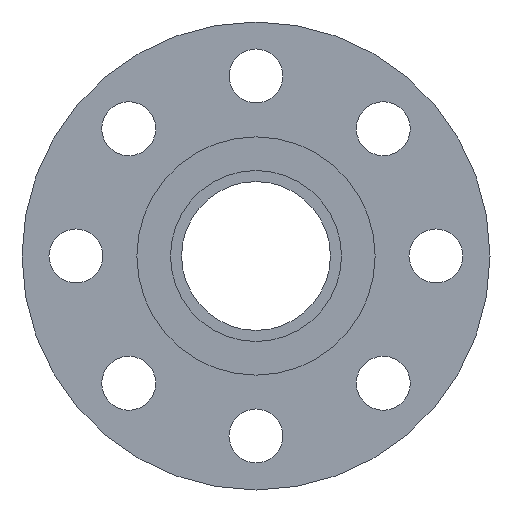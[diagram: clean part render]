
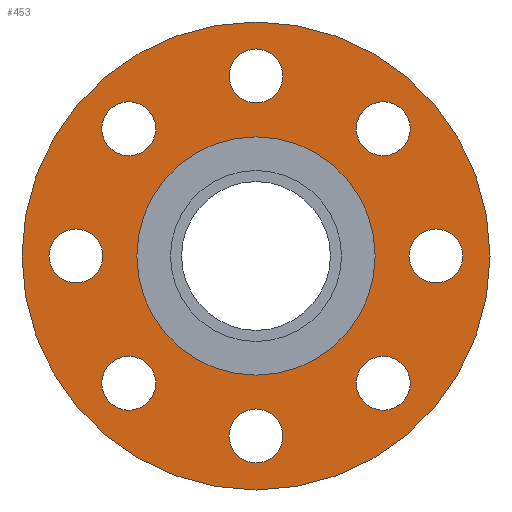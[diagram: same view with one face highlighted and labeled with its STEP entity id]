
A CAD part, left-side view. The second image highlights one B-rep face of the part: STEP entity #453.
In plain terms, the highlighted planar face has unit normal (-1, 0, 0).
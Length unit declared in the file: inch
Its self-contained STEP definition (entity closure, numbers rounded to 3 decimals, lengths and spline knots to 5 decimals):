
#14=FACE_BOUND('',#76,.T.);
#15=FACE_BOUND('',#77,.T.);
#16=FACE_BOUND('',#78,.T.);
#17=FACE_BOUND('',#79,.T.);
#18=FACE_BOUND('',#80,.T.);
#19=FACE_BOUND('',#81,.T.);
#20=FACE_BOUND('',#82,.T.);
#21=FACE_BOUND('',#83,.T.);
#22=FACE_BOUND('',#84,.T.);
#37=PLANE('',#515);
#53=FACE_OUTER_BOUND('',#75,.T.);
#75=EDGE_LOOP('',(#326,#327));
#76=EDGE_LOOP('',(#328));
#77=EDGE_LOOP('',(#329));
#78=EDGE_LOOP('',(#330));
#79=EDGE_LOOP('',(#331));
#80=EDGE_LOOP('',(#332));
#81=EDGE_LOOP('',(#333));
#82=EDGE_LOOP('',(#334));
#83=EDGE_LOOP('',(#335));
#84=EDGE_LOOP('',(#336,#337));
#142=CIRCLE('',#488,0.375);
#144=CIRCLE('',#491,0.375);
#146=CIRCLE('',#494,0.375);
#148=CIRCLE('',#497,0.375);
#150=CIRCLE('',#500,0.375);
#152=CIRCLE('',#503,0.375);
#154=CIRCLE('',#506,0.375);
#156=CIRCLE('',#509,0.375);
#157=CIRCLE('',#511,3.25);
#158=CIRCLE('',#512,3.25);
#161=CIRCLE('',#516,1.655);
#162=CIRCLE('',#517,1.655);
#186=VERTEX_POINT('',#705);
#188=VERTEX_POINT('',#711);
#190=VERTEX_POINT('',#717);
#192=VERTEX_POINT('',#723);
#194=VERTEX_POINT('',#729);
#196=VERTEX_POINT('',#735);
#198=VERTEX_POINT('',#741);
#200=VERTEX_POINT('',#747);
#201=VERTEX_POINT('',#751);
#202=VERTEX_POINT('',#752);
#205=VERTEX_POINT('',#761);
#206=VERTEX_POINT('',#762);
#231=EDGE_CURVE('',#186,#186,#142,.T.);
#234=EDGE_CURVE('',#188,#188,#144,.T.);
#237=EDGE_CURVE('',#190,#190,#146,.T.);
#240=EDGE_CURVE('',#192,#192,#148,.T.);
#243=EDGE_CURVE('',#194,#194,#150,.T.);
#246=EDGE_CURVE('',#196,#196,#152,.T.);
#249=EDGE_CURVE('',#198,#198,#154,.T.);
#252=EDGE_CURVE('',#200,#200,#156,.T.);
#253=EDGE_CURVE('',#201,#202,#157,.T.);
#254=EDGE_CURVE('',#202,#201,#158,.T.);
#258=EDGE_CURVE('',#205,#206,#161,.T.);
#259=EDGE_CURVE('',#206,#205,#162,.T.);
#326=ORIENTED_EDGE('',*,*,#253,.T.);
#327=ORIENTED_EDGE('',*,*,#254,.T.);
#328=ORIENTED_EDGE('',*,*,#231,.T.);
#329=ORIENTED_EDGE('',*,*,#234,.T.);
#330=ORIENTED_EDGE('',*,*,#237,.T.);
#331=ORIENTED_EDGE('',*,*,#240,.T.);
#332=ORIENTED_EDGE('',*,*,#243,.T.);
#333=ORIENTED_EDGE('',*,*,#246,.T.);
#334=ORIENTED_EDGE('',*,*,#249,.T.);
#335=ORIENTED_EDGE('',*,*,#252,.T.);
#336=ORIENTED_EDGE('',*,*,#258,.F.);
#337=ORIENTED_EDGE('',*,*,#259,.F.);
#453=ADVANCED_FACE('',(#53,#14,#15,#16,#17,#18,#19,#20,#21,#22),#37,.T.);
#488=AXIS2_PLACEMENT_3D('',#707,#559,#560);
#491=AXIS2_PLACEMENT_3D('',#713,#566,#567);
#494=AXIS2_PLACEMENT_3D('',#719,#573,#574);
#497=AXIS2_PLACEMENT_3D('',#725,#580,#581);
#500=AXIS2_PLACEMENT_3D('',#731,#587,#588);
#503=AXIS2_PLACEMENT_3D('',#737,#594,#595);
#506=AXIS2_PLACEMENT_3D('',#743,#601,#602);
#509=AXIS2_PLACEMENT_3D('',#749,#608,#609);
#511=AXIS2_PLACEMENT_3D('',#753,#612,#613);
#512=AXIS2_PLACEMENT_3D('',#754,#614,#615);
#515=AXIS2_PLACEMENT_3D('',#760,#621,#622);
#516=AXIS2_PLACEMENT_3D('',#763,#623,#624);
#517=AXIS2_PLACEMENT_3D('',#764,#625,#626);
#559=DIRECTION('center_axis',(1.,0.,0.));
#560=DIRECTION('ref_axis',(0.,-0.707,0.707));
#566=DIRECTION('center_axis',(1.,0.,0.));
#567=DIRECTION('ref_axis',(0.,-1.,0.));
#573=DIRECTION('center_axis',(1.,0.,0.));
#574=DIRECTION('ref_axis',(0.,-0.707,-0.707));
#580=DIRECTION('center_axis',(1.,0.,0.));
#581=DIRECTION('ref_axis',(0.,0.,-1.));
#587=DIRECTION('center_axis',(1.,0.,0.));
#588=DIRECTION('ref_axis',(0.,0.707,-0.707));
#594=DIRECTION('center_axis',(1.,0.,0.));
#595=DIRECTION('ref_axis',(0.,1.,0.));
#601=DIRECTION('center_axis',(1.,0.,0.));
#602=DIRECTION('ref_axis',(0.,0.707,0.707));
#608=DIRECTION('center_axis',(1.,0.,0.));
#609=DIRECTION('ref_axis',(0.,0.,1.));
#612=DIRECTION('center_axis',(-1.,0.,0.));
#613=DIRECTION('ref_axis',(0.,0.,1.));
#614=DIRECTION('center_axis',(-1.,0.,0.));
#615=DIRECTION('ref_axis',(0.,0.,1.));
#621=DIRECTION('center_axis',(-1.,0.,0.));
#622=DIRECTION('ref_axis',(0.,0.,1.));
#623=DIRECTION('center_axis',(-1.,0.,0.));
#624=DIRECTION('ref_axis',(0.,0.,1.));
#625=DIRECTION('center_axis',(-1.,0.,0.));
#626=DIRECTION('ref_axis',(0.,0.,1.));
#705=CARTESIAN_POINT('',(-0.88,2.03293,-2.03293));
#707=CARTESIAN_POINT('Origin',(-0.88,1.76777,-1.76777));
#711=CARTESIAN_POINT('',(-0.88,2.875,0.));
#713=CARTESIAN_POINT('Origin',(-0.88,2.5,0.));
#717=CARTESIAN_POINT('',(-0.88,2.03293,2.03293));
#719=CARTESIAN_POINT('Origin',(-0.88,1.76777,1.76777));
#723=CARTESIAN_POINT('',(-0.88,0.,2.875));
#725=CARTESIAN_POINT('Origin',(-0.88,0.,
2.5));
#729=CARTESIAN_POINT('',(-0.88,-2.03293,2.03293));
#731=CARTESIAN_POINT('Origin',(-0.88,-1.76777,1.76777));
#735=CARTESIAN_POINT('',(-0.88,-2.875,0.));
#737=CARTESIAN_POINT('Origin',(-0.88,-2.5,0.));
#741=CARTESIAN_POINT('',(-0.88,-2.03293,-2.03293));
#743=CARTESIAN_POINT('Origin',(-0.88,-1.76777,-1.76777));
#747=CARTESIAN_POINT('',(-0.88,0.,-2.875));
#749=CARTESIAN_POINT('Origin',(-0.88,0.,
-2.5));
#751=CARTESIAN_POINT('',(-0.88,0.,3.25));
#752=CARTESIAN_POINT('',(-0.88,0.,-3.25));
#753=CARTESIAN_POINT('Origin',(-0.88,0.,0.));
#754=CARTESIAN_POINT('Origin',(-0.88,0.,0.));
#760=CARTESIAN_POINT('Origin',(-0.88,0.,2.4525));
#761=CARTESIAN_POINT('',(-0.88,0.,1.655));
#762=CARTESIAN_POINT('',(-0.88,0.,-1.655));
#763=CARTESIAN_POINT('Origin',(-0.88,0.,0.));
#764=CARTESIAN_POINT('Origin',(-0.88,0.,0.));
